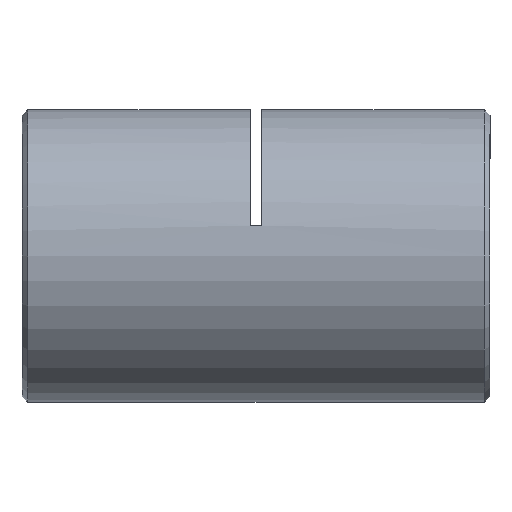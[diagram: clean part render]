
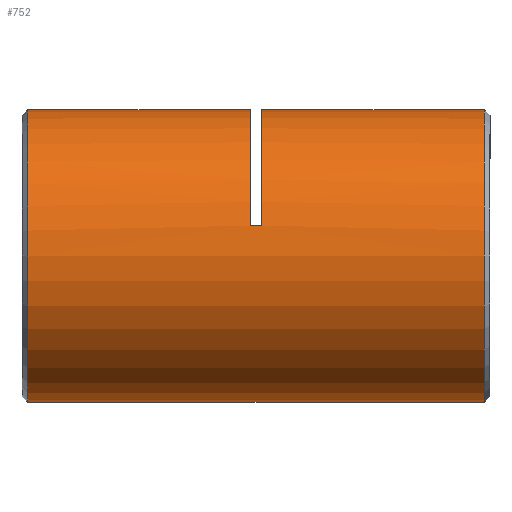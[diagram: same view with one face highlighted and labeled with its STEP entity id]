
A CAD part, left-side view. The second image highlights one B-rep face of the part: STEP entity #752.
In plain terms, the highlighted cylindrical face has radius 12.5 mm (diameter 25 mm), a partial arc.
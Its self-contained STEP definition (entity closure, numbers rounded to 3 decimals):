
#117 = AXIS2_PLACEMENT_3D ( 'NONE', #5508, #1388, #593 ) ;
#295 = DIRECTION ( 'NONE',  ( 0., 1., 0. ) ) ;
#297 = EDGE_CURVE ( 'NONE', #5312, #3026, #5713, .T. ) ;
#414 = DIRECTION ( 'NONE',  ( 0., -1., 0. ) ) ;
#431 = CARTESIAN_POINT ( 'NONE',  ( 0., 39.75, 0. ) ) ;
#566 = ORIENTED_EDGE ( 'NONE', *, *, #5143, .T. ) ;
#593 = DIRECTION ( 'NONE',  ( 0., 0., 1. ) ) ;
#700 = CARTESIAN_POINT ( 'NONE',  ( 0., 19.75, 12.5 ) ) ;
#725 = ORIENTED_EDGE ( 'NONE', *, *, #1612, .T. ) ;
#752 = ADVANCED_FACE ( 'NONE', ( #3230 ), #1004, .T. ) ;
#771 = EDGE_CURVE ( 'NONE', #3797, #3734, #1622, .T. ) ;
#785 = VERTEX_POINT ( 'NONE', #1505 ) ;
#901 = EDGE_CURVE ( 'NONE', #5477, #5762, #4558, .T. ) ;
#948 = CARTESIAN_POINT ( 'NONE',  ( -12.226, 20.25, 2.604 ) ) ;
#981 = CARTESIAN_POINT ( 'NONE',  ( -12.226, 19.75, 2.604 ) ) ;
#1004 = CYLINDRICAL_SURFACE ( 'NONE', #1527, 12.5 ) ;
#1012 = LINE ( 'NONE', #4627, #1798 ) ;
#1029 = DIRECTION ( 'NONE',  ( 0., 0., -1. ) ) ;
#1260 = DIRECTION ( 'NONE',  ( 0., -1., 0. ) ) ;
#1321 = ORIENTED_EDGE ( 'NONE', *, *, #3965, .F. ) ;
#1382 = ORIENTED_EDGE ( 'NONE', *, *, #1913, .T. ) ;
#1388 = DIRECTION ( 'NONE',  ( 0., 1., 0. ) ) ;
#1505 = CARTESIAN_POINT ( 'NONE',  ( 0., 39.75, 12.5 ) ) ;
#1527 = AXIS2_PLACEMENT_3D ( 'NONE', #2316, #4206, #1029 ) ;
#1612 = EDGE_CURVE ( 'NONE', #1808, #3797, #1012, .T. ) ;
#1622 = CIRCLE ( 'NONE', #117, 12.5 ) ;
#1798 = VECTOR ( 'NONE', #3765, 1000. ) ;
#1804 = LINE ( 'NONE', #4915, #3389 ) ;
#1808 = VERTEX_POINT ( 'NONE', #3920 ) ;
#1913 = EDGE_CURVE ( 'NONE', #5312, #5477, #3558, .T. ) ;
#2013 = DIRECTION ( 'NONE',  ( 0., 1., 0. ) ) ;
#2019 = DIRECTION ( 'NONE',  ( 0., 0., 1. ) ) ;
#2098 = VECTOR ( 'NONE', #5364, 1000. ) ;
#2243 = LINE ( 'NONE', #2273, #2941 ) ;
#2273 = CARTESIAN_POINT ( 'NONE',  ( 0., 40.5, 12.5 ) ) ;
#2305 = DIRECTION ( 'NONE',  ( 0., -1., 0. ) ) ;
#2310 = CIRCLE ( 'NONE', #4195, 12.5 ) ;
#2316 = CARTESIAN_POINT ( 'NONE',  ( 0., 40.5, 0. ) ) ;
#2370 = ORIENTED_EDGE ( 'NONE', *, *, #771, .T. ) ;
#2734 = ORIENTED_EDGE ( 'NONE', *, *, #297, .F. ) ;
#2941 = VECTOR ( 'NONE', #2305, 1000. ) ;
#3026 = VERTEX_POINT ( 'NONE', #700 ) ;
#3068 = DIRECTION ( 'NONE',  ( 0., 0., -1. ) ) ;
#3230 = FACE_OUTER_BOUND ( 'NONE', #3414, .T. ) ;
#3378 = CARTESIAN_POINT ( 'NONE',  ( -12.226, 20.75, 2.604 ) ) ;
#3389 = VECTOR ( 'NONE', #414, 1000. ) ;
#3414 = EDGE_LOOP ( 'NONE', ( #1321, #566, #725, #2370, #5814, #2734, #1382, #5866 ) ) ;
#3558 = LINE ( 'NONE', #948, #2098 ) ;
#3571 = CARTESIAN_POINT ( 'NONE',  ( 0., 0.75, 12.5 ) ) ;
#3698 = CARTESIAN_POINT ( 'NONE',  ( 0., 20.75, 12.5 ) ) ;
#3734 = VERTEX_POINT ( 'NONE', #3571 ) ;
#3765 = DIRECTION ( 'NONE',  ( 0., -1., 0. ) ) ;
#3797 = VERTEX_POINT ( 'NONE', #5641 ) ;
#3804 = AXIS2_PLACEMENT_3D ( 'NONE', #4704, #295, #2019 ) ;
#3920 = CARTESIAN_POINT ( 'NONE',  ( 0., 39.75, -12.5 ) ) ;
#3965 = EDGE_CURVE ( 'NONE', #785, #5762, #2243, .T. ) ;
#4195 = AXIS2_PLACEMENT_3D ( 'NONE', #431, #1260, #3068 ) ;
#4206 = DIRECTION ( 'NONE',  ( 0., -1., 0. ) ) ;
#4558 = CIRCLE ( 'NONE', #3804, 12.5 ) ;
#4581 = DIRECTION ( 'NONE',  ( 0., 0., 1. ) ) ;
#4627 = CARTESIAN_POINT ( 'NONE',  ( 0., 40.5, -12.5 ) ) ;
#4704 = CARTESIAN_POINT ( 'NONE',  ( 0., 20.75, 0. ) ) ;
#4763 = AXIS2_PLACEMENT_3D ( 'NONE', #5139, #2013, #4581 ) ;
#4879 = EDGE_CURVE ( 'NONE', #3026, #3734, #1804, .T. ) ;
#4915 = CARTESIAN_POINT ( 'NONE',  ( 0., 40.5, 12.5 ) ) ;
#5139 = CARTESIAN_POINT ( 'NONE',  ( 0., 19.75, 0. ) ) ;
#5143 = EDGE_CURVE ( 'NONE', #785, #1808, #2310, .T. ) ;
#5312 = VERTEX_POINT ( 'NONE', #981 ) ;
#5364 = DIRECTION ( 'NONE',  ( 0., 1., 0. ) ) ;
#5477 = VERTEX_POINT ( 'NONE', #3378 ) ;
#5508 = CARTESIAN_POINT ( 'NONE',  ( 0., 0.75, 0. ) ) ;
#5641 = CARTESIAN_POINT ( 'NONE',  ( 0., 0.75, -12.5 ) ) ;
#5713 = CIRCLE ( 'NONE', #4763, 12.5 ) ;
#5762 = VERTEX_POINT ( 'NONE', #3698 ) ;
#5814 = ORIENTED_EDGE ( 'NONE', *, *, #4879, .F. ) ;
#5866 = ORIENTED_EDGE ( 'NONE', *, *, #901, .T. ) ;
